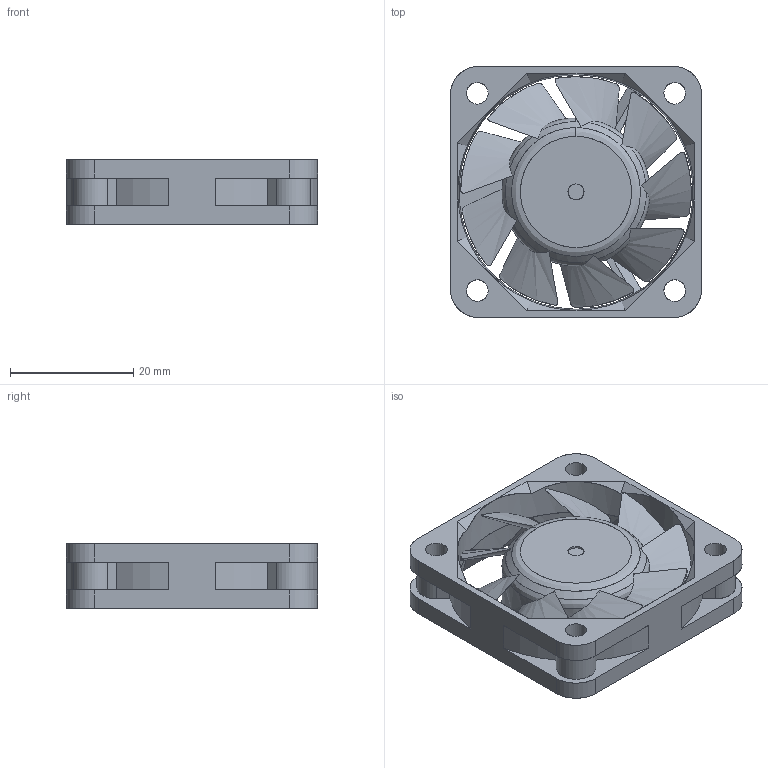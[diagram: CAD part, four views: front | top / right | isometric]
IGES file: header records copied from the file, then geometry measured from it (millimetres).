
Global section: file name: 4010P_RIBBED.igs; native system: THINKDESIGN 2013.1.116; preprocessor: PDElib Version v7.0, created Thu 05/02/2013 16:22:51.38; date: 20161219.164438; units: millimetre
Bounding box: 40.7 x 40.7 x 10.5 mm (x, y, z)
Surface area: 7727.3 mm2 (no closed solid volume)
Topology: 0 solids, 0 shells, 153 faces, 949 edges, 949 vertices
Faces by surface type: bspline 99, extrusion 54
